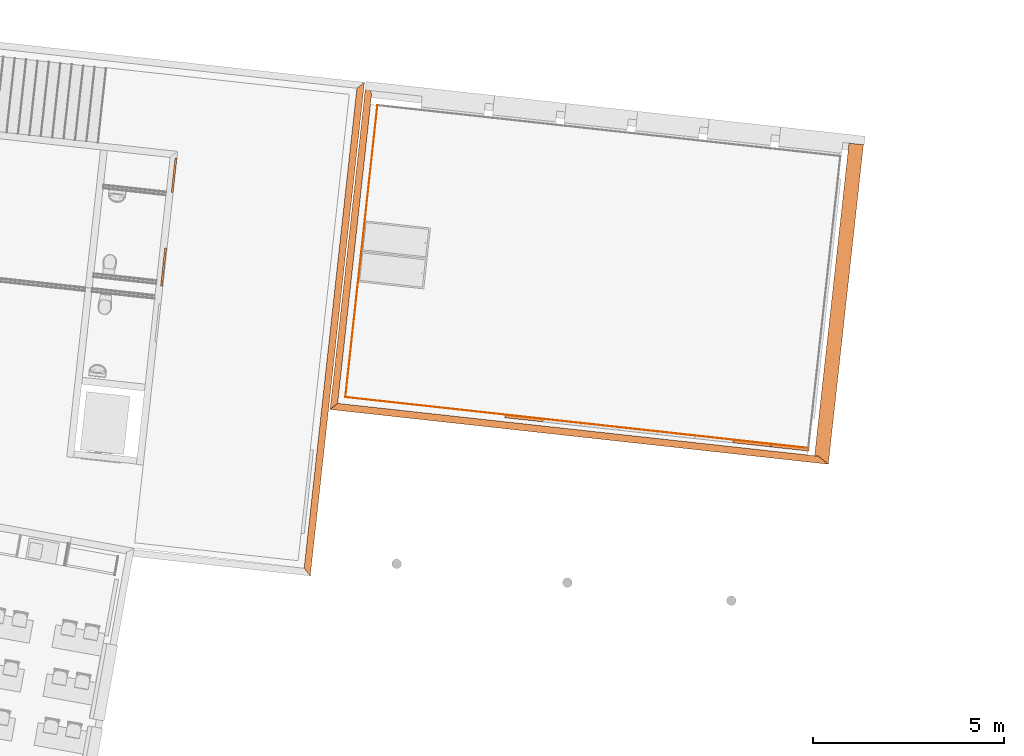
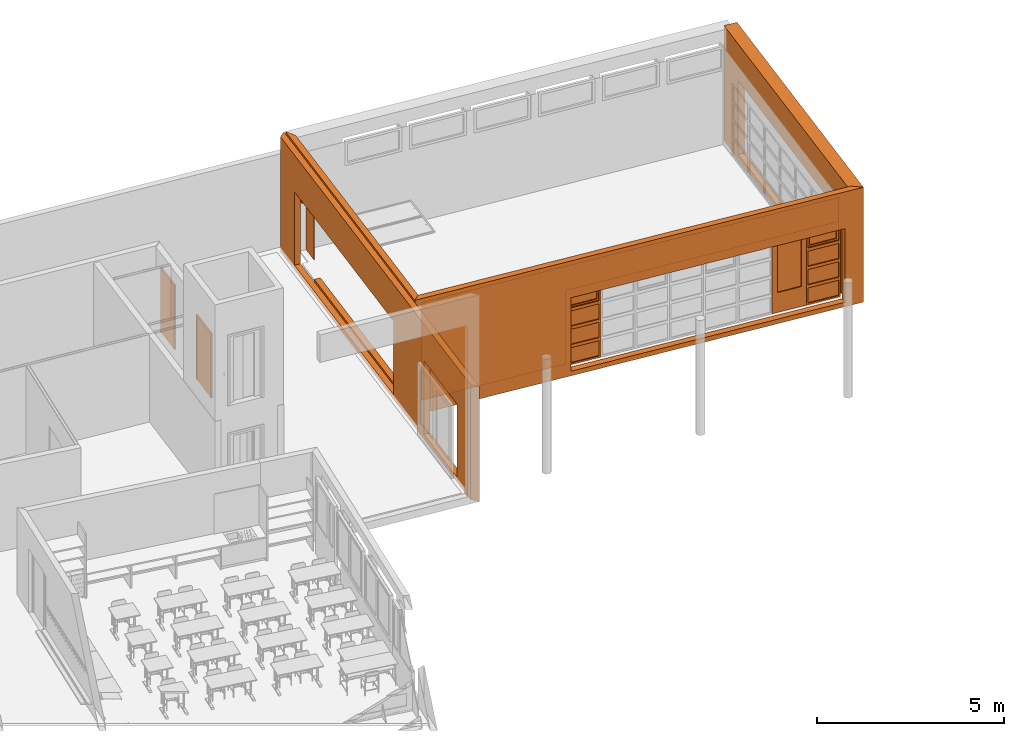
# One storey, part 71 of 79: 11 proxies.
"""IFC2X3 building model written with IfcOpenShell, lengths in metres."""

from ifc_helpers import new_model, entity, si_unit, converted_unit, derived_unit, money_unit, direction, frame, origin_with_axes, place, context, subcontext, project, spatial, polyline, outline, extrude, boolean, open_shell, faceted_brep, surface_model, material, type_object, element, save


model = new_model("IFC2X3")

# Units and contexts
model_context = context("Model", 3, precision=1e-05, world=origin_with_axes(), true_north=direction((0.0, 1.0)))
body_context = subcontext(model_context, "Body", "Model", "MODEL_VIEW")
ifc_project = project(units=[si_unit("LENGTHUNIT", "METRE"), si_unit("AREAUNIT", "SQUARE_METRE"), si_unit("VOLUMEUNIT", "CUBIC_METRE"), converted_unit("PLANEANGLEUNIT", "DEGREE", entity("IfcPlaneAngleMeasure", 0.0174532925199), si_unit("PLANEANGLEUNIT", "RADIAN"), dimensions=[0, 0, 0, 0, 0, 0, 0]), money_unit("CHF"), converted_unit("TIMEUNIT", "Year", entity("IfcTimeMeasure", 31556926.0), si_unit("TIMEUNIT", "SECOND"), dimensions=[0, 0, 1, 0, 0, 0, 0]), si_unit("MASSUNIT", "GRAM", prefix="KILO"), si_unit("THERMODYNAMICTEMPERATUREUNIT", "DEGREE_CELSIUS"), si_unit("LUMINOUSINTENSITYUNIT", "LUMEN"), si_unit("ENERGYUNIT", "JOULE", prefix="MEGA"), derived_unit("THERMALCONDUCTANCEUNIT", [(si_unit("POWERUNIT", "WATT"), 1), (si_unit("LENGTHUNIT", "METRE"), -1), (si_unit("THERMODYNAMICTEMPERATUREUNIT", "KELVIN"), -1)]), derived_unit("SPECIFICHEATCAPACITYUNIT", [(si_unit("ENERGYUNIT", "JOULE"), 1), (si_unit("MASSUNIT", "GRAM", prefix="KILO"), -1), (si_unit("THERMODYNAMICTEMPERATUREUNIT", "KELVIN"), -1)]), derived_unit("MASSDENSITYUNIT", [(si_unit("MASSUNIT", "GRAM", prefix="KILO"), 1), (si_unit("VOLUMEUNIT", "CUBIC_METRE"), -1)])], contexts=[model_context])

# Site, building, storey
site_placement = place(None, frame((0.0, 0.0, 0.0), z_axis=(0.0, 0.0, 1.0), x_axis=(-0.177771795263, -0.984071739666, 0.0)))
site = spatial("IfcSite", under=ifc_project, at=site_placement, Name="Site", CompositionType="ELEMENT")
building_placement = place(site_placement, origin_with_axes())
building = spatial("IfcBuilding", under=site, at=building_placement, Name="Bâtiment", CompositionType="ELEMENT")
storey_placement = place(building_placement, origin_with_axes())
storey = spatial("IfcBuildingStorey", under=building, at=storey_placement, Name="RDC", CompositionType="ELEMENT", Elevation=0.0)

# Proxies
ifc_material_1 = material(Name="Matériau de construction IFC")
building_element_proxy_type_1 = type_object("IfcBuildingElementProxyType", Name="Porte 21", PredefinedType="NOTDEFINED")
proxy_1_placement = place(storey_placement, frame((102.058965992, -148.678173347, 0.0), z_axis=(0.0, 0.0, 1.0), x_axis=(0.997598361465, 0.0692640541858, 0.0)))
element("IfcBuildingElementProxy", 1, at=proxy_1_placement, inside=storey, type_object=building_element_proxy_type_1, material=ifc_material_1, Name="21", context=body_context, shape_type="Brep", body=[
    faceted_brep([(0.05, -0.04, 0.0), (0.05, -0.04, 2.05), (0.05, -0.05, 2.05), (0.05, -0.05, 0.0), (0.038, -0.04, 2.05), (0.038, -0.04, 0.0), (0.038, 0.0, 2.05), (0.0, 0.0, 2.05), (0.0, -0.05, 2.05), (0.0, -0.05, 0.0), (0.0, 0.0, 0.0), (0.038, 0.0, 0.0)], [[[0, 1, 2, 3]], [[4, 1, 0, 5]], [[4, 6, 7, 8, 2, 1]], [[3, 2, 8, 9]], [[5, 0, 3, 9, 10, 11]], [[6, 4, 5, 11]], [[6, 11, 10, 7]], [[10, 9, 8, 7]]]),
    faceted_brep([(0.962, -0.04, 2.05), (0.95, -0.04, 2.05), (0.95, -0.05, 2.05), (1.0, -0.05, 2.05), (1.0, 0.0, 2.05), (0.962, 0.0, 2.05), (0.962, -0.04, 0.0), (0.95, -0.04, 0.0), (0.95, -0.05, 0.0), (1.0, -0.05, 0.0), (1.0, 0.0, 0.0), (0.962, 0.0, 0.0)], [[[0, 1, 2, 3, 4, 5]], [[1, 0, 6, 7]], [[1, 7, 8, 2]], [[3, 2, 8, 9]], [[4, 3, 9, 10]], [[11, 5, 4, 10]], [[0, 5, 11, 6]], [[6, 11, 10, 9, 8, 7]]]),
    faceted_brep([(0.038, 0.0, 2.062), (0.038, 0.0, 2.05), (0.0, 0.0, 2.05), (0.0, 0.0, 2.1), (1.0, 0.0, 2.1), (1.0, 0.0, 2.05), (0.962, 0.0, 2.05), (0.962, 0.0, 2.062), (0.038, -0.04, 2.062), (0.038, -0.04, 2.05), (0.05, -0.04, 2.05), (0.05, -0.05, 2.05), (0.0, -0.05, 2.05), (0.0, -0.05, 2.1), (1.0, -0.05, 2.1), (1.0, -0.05, 2.05), (0.962, -0.04, 2.05), (0.95, -0.05, 2.05), (0.95, -0.04, 2.05), (0.962, -0.04, 2.062)], [[[0, 1, 2, 3, 4, 5, 6, 7]], [[1, 0, 8, 9]], [[9, 10, 11, 12, 2, 1]], [[2, 12, 13, 3]], [[3, 13, 14, 4]], [[4, 14, 15, 5]], [[16, 6, 5, 15, 17, 18]], [[7, 6, 16, 19]], [[0, 7, 19, 8]], [[16, 18, 10, 9, 8, 19]], [[10, 18, 17, 11]], [[17, 15, 14, 13, 12, 11]]]),
    faceted_brep([(0.962, -0.00999999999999, 0.0), (0.962, -0.04, 0.0), (0.038, -0.04, 0.0), (0.038, -0.00999999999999, 0.0), (0.962, -0.00999999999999, 2.062), (0.962, -0.04, 2.062), (0.038, -0.04, 2.062), (0.038, -0.00999999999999, 2.062)], [[[0, 1, 2, 3]], [[4, 5, 1, 0]], [[1, 5, 6, 2]], [[3, 2, 6, 7]], [[0, 3, 7, 4]], [[7, 6, 5, 4]]]),
])
proxy_2_placement = place(storey_placement, frame((99.6953772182, -148.832342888, 0.0), z_axis=(0.0, 0.0, 1.0), x_axis=(0.997598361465, 0.0692640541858, 0.0)))
element("IfcBuildingElementProxy", 2, at=proxy_2_placement, inside=storey, type_object=building_element_proxy_type_1, material=ifc_material_1, Name="32", context=body_context, shape_type="Brep", body=[
    faceted_brep([(0.85, -0.04, 0.0), (0.85, -0.05, 0.0), (0.85, -0.05, 2.05), (0.85, -0.04, 2.05), (0.862, -0.04, 0.0), (0.862, 0.0, 0.0), (0.9, 0.0, 0.0), (0.9, -0.05, 0.0), (0.9, -0.05, 2.05), (0.862, -0.04, 2.05), (0.9, 0.0, 2.05), (0.862, 0.0, 2.05)], [[[0, 1, 2, 3]], [[4, 5, 6, 7, 1, 0]], [[1, 7, 8, 2]], [[9, 3, 2, 8, 10, 11]], [[9, 4, 0, 3]], [[11, 5, 4, 9]], [[11, 10, 6, 5]], [[6, 10, 8, 7]]]),
    faceted_brep([(0.038, -0.04, 2.05), (0.038, 0.0, 2.05), (0.0, 0.0, 2.05), (0.0, -0.05, 2.05), (0.05, -0.05, 2.05), (0.05, -0.04, 2.05), (0.038, -0.04, 0.0), (0.038, 0.0, 0.0), (0.0, 0.0, 0.0), (0.0, -0.05, 0.0), (0.05, -0.05, 0.0), (0.05, -0.04, 0.0)], [[[0, 1, 2, 3, 4, 5]], [[0, 6, 7, 1]], [[7, 8, 2, 1]], [[2, 8, 9, 3]], [[3, 9, 10, 4]], [[5, 4, 10, 11]], [[5, 11, 6, 0]], [[6, 11, 10, 9, 8, 7]]]),
    faceted_brep([(0.862, 0.0, 2.062), (0.038, 0.0, 2.062), (0.038, 0.0, 2.05), (0.0, 0.0, 2.05), (0.0, 0.0, 2.1), (0.9, 0.0, 2.1), (0.9, 0.0, 2.05), (0.862, 0.0, 2.05), (0.862, -0.04, 2.062), (0.038, -0.04, 2.062), (0.038, -0.04, 2.05), (0.05, -0.04, 2.05), (0.05, -0.05, 2.05), (0.0, -0.05, 2.05), (0.0, -0.05, 2.1), (0.9, -0.05, 2.1), (0.9, -0.05, 2.05), (0.862, -0.04, 2.05), (0.85, -0.05, 2.05), (0.85, -0.04, 2.05)], [[[0, 1, 2, 3, 4, 5, 6, 7]], [[0, 8, 9, 1]], [[1, 9, 10, 2]], [[10, 11, 12, 13, 3, 2]], [[4, 3, 13, 14]], [[5, 4, 14, 15]], [[6, 5, 15, 16]], [[17, 7, 6, 16, 18, 19]], [[7, 17, 8, 0]], [[10, 9, 8, 17, 19, 11]], [[19, 18, 12, 11]], [[12, 18, 16, 15, 14, 13]]]),
    faceted_brep([(0.038, -0.00999999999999, 0.0), (0.862, -0.00999999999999, 0.0), (0.862, -0.04, 0.0), (0.038, -0.04, 0.0), (0.038, -0.00999999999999, 2.062), (0.862, -0.00999999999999, 2.062), (0.862, -0.04, 2.062), (0.038, -0.04, 2.062)], [[[0, 1, 2, 3]], [[0, 4, 5, 1]], [[1, 5, 6, 2]], [[3, 2, 6, 7]], [[4, 0, 3, 7]], [[5, 4, 7, 6]]]),
])
proxy_3_placement = place(storey_placement, frame((104.644894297, -132.195010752, 0.0), z_axis=(0.0, 0.0, 1.0), x_axis=(0.0692640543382, -0.997598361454, 0.0)))
element("IfcBuildingElementProxy", 3, at=proxy_3_placement, inside=storey, type_object=building_element_proxy_type_1, material=ifc_material_1, Name="P ext-pluri -detail-", context=body_context, shape_type="SurfaceModel", body=[
    faceted_brep([(0.0, -0.285, 0.0), (0.05, -0.285, 0.0), (0.05, -0.36, 0.0), (0.0, -0.36, 0.0), (0.0, -0.285, 2.35), (0.05, -0.285, 2.35), (0.05, -0.36, 2.35), (0.0, -0.36, 2.35)], [[[0, 1, 2, 3]], [[0, 4, 5, 1]], [[1, 5, 6, 2]], [[3, 2, 6, 7]], [[4, 0, 3, 7]], [[5, 4, 7, 6]]]),
    faceted_brep([(1.0, -0.285, 0.0), (1.0, -0.285, 2.35), (1.0, -0.36, 2.35), (1.0, -0.36, 0.0), (0.95, -0.285, 0.0), (0.95, -0.285, 2.35), (0.95, -0.36, 2.35), (0.95, -0.36, 0.0)], [[[0, 1, 2, 3]], [[0, 4, 5, 1]], [[1, 5, 6, 2]], [[3, 2, 6, 7]], [[4, 0, 3, 7]], [[5, 4, 7, 6]]]),
    faceted_brep([(0.0, -0.285, 2.4), (0.0, -0.285, 2.35), (0.0, -0.36, 2.35), (0.0, -0.36, 2.4), (1.0, -0.285, 2.4), (1.0, -0.285, 2.35), (0.95, -0.285, 2.35), (0.05, -0.285, 2.35), (0.05, -0.36, 2.35), (0.95, -0.36, 2.35), (1.0, -0.36, 2.35), (1.0, -0.36, 2.4)], [[[0, 1, 2, 3]], [[0, 4, 5, 6, 7, 1]], [[1, 7, 8, 2]], [[3, 2, 8, 9, 10, 11]], [[4, 0, 3, 11]], [[5, 4, 11, 10]], [[6, 5, 10, 9]], [[7, 6, 9, 8]]]),
    faceted_brep([(0.95, -0.285, 0.65), (0.95, -0.36, 0.65), (0.85, -0.36, 0.65), (0.85, -0.285, 0.65), (0.95, -0.285, 2.25), (0.95, -0.36, 2.25), (0.85, -0.36, 2.25), (0.85, -0.285, 2.25)], [[[0, 1, 2, 3]], [[4, 5, 1, 0]], [[1, 5, 6, 2]], [[3, 2, 6, 7]], [[0, 3, 7, 4]], [[7, 6, 5, 4]]]),
    faceted_brep([(0.05, -0.285, 0.65), (0.05, -0.36, 0.65), (0.05, -0.36, 2.25), (0.05, -0.285, 2.25), (0.15, -0.285, 0.65), (0.15, -0.36, 0.65), (0.15, -0.36, 2.25), (0.15, -0.285, 2.25)], [[[0, 1, 2, 3]], [[4, 5, 1, 0]], [[1, 5, 6, 2]], [[3, 2, 6, 7]], [[0, 3, 7, 4]], [[7, 6, 5, 4]]]),
    faceted_brep([(0.95, -0.285, 0.0), (0.95, -0.36, 0.0), (0.05, -0.36, 0.0), (0.05, -0.285, 0.0), (0.95, -0.285, 0.65), (0.95, -0.36, 0.65), (0.85, -0.36, 0.65), (0.15, -0.36, 0.65), (0.05, -0.36, 0.65), (0.05, -0.285, 0.65), (0.15, -0.285, 0.65), (0.85, -0.285, 0.65)], [[[0, 1, 2, 3]], [[4, 5, 1, 0]], [[1, 5, 6, 7, 8, 2]], [[3, 2, 8, 9]], [[0, 3, 9, 10, 11, 4]], [[11, 6, 5, 4]], [[10, 7, 6, 11]], [[9, 8, 7, 10]]]),
    faceted_brep([(0.95, -0.285, 2.35), (0.95, -0.36, 2.35), (0.95, -0.36, 2.25), (0.95, -0.285, 2.25), (0.05, -0.285, 2.35), (0.05, -0.36, 2.35), (0.05, -0.36, 2.25), (0.15, -0.36, 2.25), (0.85, -0.36, 2.25), (0.85, -0.285, 2.25), (0.15, -0.285, 2.25), (0.05, -0.285, 2.25)], [[[0, 1, 2, 3]], [[4, 5, 1, 0]], [[1, 5, 6, 7, 8, 2]], [[3, 2, 8, 9]], [[0, 3, 9, 10, 11, 4]], [[11, 6, 5, 4]], [[10, 7, 6, 11]], [[9, 8, 7, 10]]]),
    surface_model("IfcShellBasedSurfaceModel", [(0.85, -0.3125, 0.65), (0.15, -0.3125, 0.65), (0.15, -0.3125, 2.25), (0.85, -0.3125, 2.25)], [open_shell([[[0, 1, 2, 3]]])]),
    surface_model("IfcShellBasedSurfaceModel", [(0.85, -0.3325, 0.65), (0.85, -0.3325, 2.25), (0.15, -0.3325, 2.25), (0.15, -0.3325, 0.65)], [open_shell([[[0, 1, 2, 3]]])]),
])
ifc_material_2 = material(Name="_BA banché RAL9007")
building_element_proxy_type_2 = type_object("IfcBuildingElementProxyType", Name="_M ext 18 +18 gris 360", PredefinedType="NOTDEFINED")
proxy_4_placement = place(storey_placement, frame((105.445553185, -143.726764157, -0.15), z_axis=(0.0, 0.0, 1.0), x_axis=(-0.0692640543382, 0.997598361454, 0.0)))
element("IfcBuildingElementProxy", 4, at=proxy_4_placement, inside=storey, type_object=building_element_proxy_type_2, material=ifc_material_2, Name="M ext pluri-Sud", context=body_context, shape_type="CSG", body=[
    boolean("DIFFERENCE", extrude(outline(polyline([(0.0, 0.0), (13.0995151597, 0.0), (12.8195151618, 0.18), (0.18, 0.18), (0.0, 0.0)])), origin_with_axes(), (0.0, 0.0, 1.0), 3.75), faceted_brep([(12.559515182, 0.18, 0.15), (4.55951518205, 0.18, 0.15), (4.55951518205, 0.18, 2.55), (12.559515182, 0.18, 2.55), (12.559515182, 0.0, 0.15), (4.55951518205, 0.0, 0.15), (4.55951518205, 0.0, 2.55), (12.559515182, 0.0, 2.55)], [[[0, 1, 2, 3]], [[4, 5, 1, 0]], [[5, 6, 2, 1]], [[6, 7, 3, 2]], [[7, 4, 0, 3]], [[4, 7, 6, 5]]])),
])
building_element_proxy_type_3 = type_object("IfcBuildingElementProxyType", Name="_M ext 18 +18 360", PredefinedType="NOTDEFINED")
proxy_5_placement = place(storey_placement, frame((109.817230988, -143.463331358, -0.15), z_axis=(0.0, 0.0, 1.0), x_axis=(-0.997598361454, -0.0692640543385, 0.0)))
element("IfcBuildingElementProxy", 5, at=proxy_5_placement, inside=storey, type_object=building_element_proxy_type_3, material=ifc_material_2, Name="M ext hall-Est", context=body_context, shape_type="CSG", body=[
    boolean("DIFFERENCE", boolean("DIFFERENCE", extrude(outline(polyline([(0.0, 0.0), (12.9794250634, 0.0), (12.7994250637, 0.18), (0.180000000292, 0.18), (0.0, 0.0)])), origin_with_axes(), (0.0, 0.0, 1.0), 3.75), faceted_brep([(11.8794250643, 0.0, 0.15), (11.8794250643, 0.0, 2.55), (5.27942506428, 0.0, 2.55), (5.27942506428, 0.0, 0.15), (11.8794250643, 0.18, 0.15), (11.8794250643, 0.18, 2.55), (5.27942506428, 0.18, 2.55), (5.27942506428, 0.18, 0.15)], [[[0, 1, 2, 3]], [[4, 5, 1, 0]], [[5, 6, 2, 1]], [[6, 7, 3, 2]], [[7, 4, 0, 3]], [[4, 7, 6, 5]]])), faceted_brep([(3.27946988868, 0.0, 0.15), (3.27946988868, 0.0, 2.55), (1.07946988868, 0.0, 2.55), (1.07946988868, 0.0, 0.15), (3.27946988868, 0.18, 0.15), (3.27946988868, 0.18, 2.55), (1.07946988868, 0.18, 2.55), (1.07946988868, 0.18, 0.15)], [[[0, 1, 2, 3]], [[4, 5, 1, 0]], [[5, 6, 2, 1]], [[6, 7, 3, 2]], [[7, 4, 0, 3]], [[4, 7, 6, 5]]])),
])
proxy_6_placement = place(storey_placement, frame((105.445553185, -143.726764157, -0.15), z_axis=(0.0, 0.0, 1.0), x_axis=(-0.997598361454, -0.0692640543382, 0.0)))
element("IfcBuildingElementProxy", 6, at=proxy_6_placement, inside=storey, type_object=building_element_proxy_type_3, material=ifc_material_2, Name="M refend", context=body_context, shape_type="CSG", body=[
    boolean("DIFFERENCE", extrude(outline(polyline([(0.18, -0.18), (8.31999997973, -0.18), (8.59999997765, 0.0), (0.0, 0.0), (0.18, -0.18)])), origin_with_axes(), (0.0, 0.0, 1.0), 3.75), faceted_brep([(6.68453430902, 0.0, 0.15), (0.9000000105, 0.0, 0.15), (0.9000000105, 0.0, 2.55), (7.5000000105, 0.0, 2.55), (7.5000000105, 0.0, 2.1), (8.59999997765, 0.0, 2.1), (8.59999997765, 0.0, 0.0), (6.68453430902, 0.0, 0.0), (6.68453430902, -0.18, 0.15), (0.9000000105, -0.18, 0.15), (0.9000000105, -0.18, 2.55), (7.5000000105, -0.18, 2.55), (7.5000000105, -0.18, 2.1), (8.31999997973, -0.18, 2.1), (8.31999997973, -0.18, 0.0), (6.68453430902, -0.18, 0.0)], [[[0, 1, 2, 3, 4, 5, 6, 7]], [[1, 0, 8, 9]], [[2, 1, 9, 10]], [[3, 2, 10, 11]], [[4, 3, 11, 12]], [[5, 4, 12, 13]], [[5, 13, 14, 6]], [[15, 7, 6, 14]], [[0, 7, 15, 8]], [[8, 15, 14, 13, 12, 11, 10, 9]]])),
])
building_element_proxy_type_4 = type_object("IfcBuildingElementProxyType", Name="Fenêtre verticale à châssis multiples 21", PredefinedType="NOTDEFINED")
proxy_7_placement = place(storey_placement, frame((105.129742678, -139.178199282, 0.0), z_axis=(0.0, 0.0, 1.0), x_axis=(-0.0692640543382, 0.997598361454, 0.0)))
element("IfcBuildingElementProxy", 7, at=proxy_7_placement, inside=storey, type_object=building_element_proxy_type_4, material=ifc_material_1, Name="Baie salle-pluri-Sud -detail-", context=body_context, shape_type="SurfaceModel", body=[
    faceted_brep([(0.96, 0.36, 2.37), (0.96, 0.3225, 2.37), (0.95, 0.3225, 2.37), (0.95, 0.285, 2.37), (1.0, 0.285, 2.37), (1.0, 0.36, 2.37), (0.96, 0.36, 1.84), (0.96, 0.3225, 1.84), (0.95, 0.3225, 1.85), (0.95, 0.3225, 1.84), (0.95, 0.285, 1.85), (0.95, 0.285, 1.75), (0.95, 0.285, 1.25), (0.95, 0.285, 1.15), (0.95, 0.285, 0.65), (0.95, 0.285, 0.55), (0.95, 0.285, 0.05), (1.0, 0.285, 0.05), (1.0, 0.36, 0.05), (0.95, 0.36, 0.05), (0.95, 0.36, 0.55), (0.95, 0.36, 0.65), (0.95, 0.36, 1.15), (0.95, 0.36, 1.25), (0.95, 0.36, 1.75), (0.95, 0.36, 1.84)], [[[0, 1, 2, 3, 4, 5]], [[1, 0, 6, 7]], [[8, 2, 1, 7, 9]], [[2, 8, 10, 3]], [[4, 3, 10, 11, 12, 13, 14, 15, 16, 17]], [[5, 4, 17, 18]], [[6, 0, 5, 18, 19, 20, 21, 22, 23, 24, 25]], [[6, 25, 9, 7]], [[9, 25, 24, 11, 10, 8]], [[23, 12, 11, 24]], [[22, 13, 12, 23]], [[21, 14, 13, 22]], [[20, 15, 14, 21]], [[19, 16, 15, 20]], [[18, 17, 16, 19]]]),
    faceted_brep([(0.05, 0.3225, 2.37), (0.04, 0.3225, 2.37), (0.04, 0.36, 2.37), (0.0, 0.36, 2.37), (0.0, 0.285, 2.37), (0.05, 0.285, 2.37), (0.05, 0.3225, 1.85), (0.05, 0.3225, 1.84), (0.04, 0.3225, 1.84), (0.04, 0.36, 1.84), (0.05, 0.36, 1.84), (0.05, 0.36, 1.75), (0.05, 0.36, 1.25), (0.05, 0.36, 1.15), (0.05, 0.36, 0.65), (0.05, 0.36, 0.55), (0.05, 0.36, 0.05), (0.0, 0.36, 0.05), (0.0, 0.285, 0.05), (0.05, 0.285, 1.75), (0.05, 0.285, 1.85), (0.05, 0.285, 0.05), (0.05, 0.285, 0.55), (0.05, 0.285, 0.65), (0.05, 0.285, 1.15), (0.05, 0.285, 1.25)], [[[0, 1, 2, 3, 4, 5]], [[1, 0, 6, 7, 8]], [[9, 2, 1, 8]], [[9, 10, 11, 12, 13, 14, 15, 16, 17, 3, 2]], [[17, 18, 4, 3]], [[19, 20, 5, 4, 18, 21, 22, 23, 24, 25]], [[6, 0, 5, 20]], [[7, 6, 20, 19, 11, 10]], [[10, 9, 8, 7]], [[11, 19, 25, 12]], [[12, 25, 24, 13]], [[13, 24, 23, 14]], [[14, 23, 22, 15]], [[15, 22, 21, 16]], [[16, 21, 18, 17]]]),
    faceted_brep([(0.96, 0.36, 2.37), (0.96, 0.36, 2.38), (0.04, 0.36, 2.38), (0.04, 0.36, 2.37), (0.0, 0.36, 2.37), (0.0, 0.36, 2.4), (1.0, 0.36, 2.4), (1.0, 0.36, 2.37), (0.96, 0.3225, 2.37), (0.96, 0.3225, 2.38), (0.04, 0.3225, 2.38), (0.04, 0.3225, 2.37), (0.05, 0.3225, 2.37), (0.05, 0.285, 2.37), (0.0, 0.285, 2.37), (0.0, 0.285, 2.4), (1.0, 0.285, 2.4), (1.0, 0.285, 2.37), (0.95, 0.285, 2.37), (0.95, 0.3225, 2.37)], [[[0, 1, 2, 3, 4, 5, 6, 7]], [[1, 0, 8, 9]], [[2, 1, 9, 10]], [[3, 2, 10, 11]], [[11, 12, 13, 14, 4, 3]], [[4, 14, 15, 5]], [[5, 15, 16, 6]], [[6, 16, 17, 7]], [[8, 0, 7, 17, 18, 19]], [[12, 11, 10, 9, 8, 19]], [[12, 19, 18, 13]], [[14, 13, 18, 17, 16, 15]]]),
    faceted_brep([(0.95, 0.3225, 1.85), (0.05, 0.3225, 1.85), (0.05, 0.285, 1.85), (0.95, 0.285, 1.85), (0.05, 0.3225, 1.84), (0.95, 0.3225, 1.84), (0.05, 0.36, 1.84), (0.05, 0.36, 1.75), (0.05, 0.285, 1.75), (0.95, 0.285, 1.75), (0.95, 0.36, 1.75), (0.95, 0.36, 1.84)], [[[0, 1, 2, 3]], [[4, 1, 0, 5]], [[4, 6, 7, 8, 2, 1]], [[3, 2, 8, 9]], [[5, 0, 3, 9, 10, 11]], [[11, 6, 4, 5]], [[6, 11, 10, 7]], [[10, 9, 8, 7]]]),
    faceted_brep([(0.95, 0.285, 0.05), (1.0, 0.285, 0.05), (1.0, 0.36, 0.05), (0.95, 0.36, 0.05), (0.05, 0.285, 0.05), (0.0, 0.285, 0.05), (0.0, 0.285, 0.0), (1.0, 0.285, 0.0), (1.0, 0.36, 0.0), (0.0, 0.36, 0.0), (0.0, 0.36, 0.05), (0.05, 0.36, 0.05)], [[[0, 1, 2, 3]], [[0, 4, 5, 6, 7, 1]], [[1, 7, 8, 2]], [[3, 2, 8, 9, 10, 11]], [[4, 0, 3, 11]], [[5, 4, 11, 10]], [[6, 5, 10, 9]], [[7, 6, 9, 8]]]),
    faceted_brep([(0.05, 0.285, 0.65), (0.95, 0.285, 0.65), (0.95, 0.36, 0.65), (0.05, 0.36, 0.65), (0.05, 0.285, 0.55), (0.95, 0.285, 0.55), (0.95, 0.36, 0.55), (0.05, 0.36, 0.55)], [[[0, 1, 2, 3]], [[0, 4, 5, 1]], [[1, 5, 6, 2]], [[3, 2, 6, 7]], [[4, 0, 3, 7]], [[5, 4, 7, 6]]]),
    faceted_brep([(0.05, 0.285, 1.25), (0.95, 0.285, 1.25), (0.95, 0.36, 1.25), (0.05, 0.36, 1.25), (0.05, 0.285, 1.15), (0.95, 0.285, 1.15), (0.95, 0.36, 1.15), (0.05, 0.36, 1.15)], [[[0, 1, 2, 3]], [[0, 4, 5, 1]], [[1, 5, 6, 2]], [[3, 2, 6, 7]], [[4, 0, 3, 7]], [[5, 4, 7, 6]]]),
    surface_model("IfcShellBasedSurfaceModel", [(0.95, 0.3125, 0.05), (0.95, 0.3125, 0.55), (0.05, 0.3125, 0.55), (0.05, 0.3125, 0.05)], [open_shell([[[0, 1, 2, 3]]])]),
    surface_model("IfcShellBasedSurfaceModel", [(0.95, 0.3325, 0.05), (0.05, 0.3325, 0.05), (0.05, 0.3325, 0.55), (0.95, 0.3325, 0.55)], [open_shell([[[0, 1, 2, 3]]])]),
    surface_model("IfcShellBasedSurfaceModel", [(0.95, 0.3125, 0.65), (0.95, 0.3125, 1.15), (0.05, 0.3125, 1.15), (0.05, 0.3125, 0.65)], [open_shell([[[0, 1, 2, 3]]])]),
    surface_model("IfcShellBasedSurfaceModel", [(0.95, 0.3325, 0.65), (0.05, 0.3325, 0.65), (0.05, 0.3325, 1.15), (0.95, 0.3325, 1.15)], [open_shell([[[0, 1, 2, 3]]])]),
    surface_model("IfcShellBasedSurfaceModel", [(0.95, 0.3125, 1.25), (0.95, 0.3125, 1.75), (0.05, 0.3125, 1.75), (0.05, 0.3125, 1.25)], [open_shell([[[0, 1, 2, 3]]])]),
    surface_model("IfcShellBasedSurfaceModel", [(0.95, 0.3325, 1.25), (0.05, 0.3325, 1.25), (0.05, 0.3325, 1.75), (0.95, 0.3325, 1.75)], [open_shell([[[0, 1, 2, 3]]])]),
    faceted_brep([(0.9, 0.3225, 2.32), (0.96, 0.3225, 2.32), (0.96, 0.3975, 2.32), (0.9, 0.3975, 2.32), (0.9, 0.3225, 1.9), (0.96, 0.3225, 1.9), (0.96, 0.3975, 1.9), (0.9, 0.3975, 1.9)], [[[0, 1, 2, 3]], [[0, 4, 5, 1]], [[1, 5, 6, 2]], [[3, 2, 6, 7]], [[4, 0, 3, 7]], [[5, 4, 7, 6]]]),
    faceted_brep([(0.1, 0.3225, 1.9), (0.04, 0.3225, 1.9), (0.04, 0.3975, 1.9), (0.1, 0.3975, 1.9), (0.1, 0.3225, 2.32), (0.04, 0.3225, 2.32), (0.04, 0.3975, 2.32), (0.1, 0.3975, 2.32)], [[[0, 1, 2, 3]], [[0, 4, 5, 1]], [[1, 5, 6, 2]], [[3, 2, 6, 7]], [[4, 0, 3, 7]], [[5, 4, 7, 6]]]),
    faceted_brep([(0.04, 0.3225, 1.84), (0.04, 0.3225, 1.9), (0.04, 0.3975, 1.9), (0.04, 0.3975, 1.84), (0.96, 0.3225, 1.84), (0.96, 0.3225, 1.9), (0.9, 0.3225, 1.9), (0.1, 0.3225, 1.9), (0.1, 0.3975, 1.9), (0.9, 0.3975, 1.9), (0.96, 0.3975, 1.9), (0.96, 0.3975, 1.84)], [[[0, 1, 2, 3]], [[0, 4, 5, 6, 7, 1]], [[1, 7, 8, 2]], [[3, 2, 8, 9, 10, 11]], [[4, 0, 3, 11]], [[5, 4, 11, 10]], [[6, 5, 10, 9]], [[7, 6, 9, 8]]]),
    faceted_brep([(0.96, 0.3225, 2.38), (0.96, 0.3225, 2.32), (0.96, 0.3975, 2.32), (0.96, 0.3975, 2.38), (0.04, 0.3225, 2.38), (0.04, 0.3225, 2.32), (0.1, 0.3225, 2.32), (0.9, 0.3225, 2.32), (0.9, 0.3975, 2.32), (0.1, 0.3975, 2.32), (0.04, 0.3975, 2.32), (0.04, 0.3975, 2.38)], [[[0, 1, 2, 3]], [[0, 4, 5, 6, 7, 1]], [[1, 7, 8, 2]], [[3, 2, 8, 9, 10, 11]], [[4, 0, 3, 11]], [[5, 4, 11, 10]], [[6, 5, 10, 9]], [[7, 6, 9, 8]]]),
    surface_model("IfcShellBasedSurfaceModel", [(0.9, 0.35, 1.9), (0.9, 0.35, 2.32), (0.1, 0.35, 2.32), (0.1, 0.35, 1.9)], [open_shell([[[0, 1, 2, 3]]])]),
    surface_model("IfcShellBasedSurfaceModel", [(0.9, 0.37, 1.9), (0.1, 0.37, 1.9), (0.1, 0.37, 2.32), (0.9, 0.37, 2.32)], [open_shell([[[0, 1, 2, 3]]])]),
])
proxy_8_placement = place(storey_placement, frame((104.644894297, -132.195010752, 0.0), z_axis=(0.0, 0.0, 1.0), x_axis=(-0.0692640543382, 0.997598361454, 0.0)))
element("IfcBuildingElementProxy", 8, at=proxy_8_placement, inside=storey, type_object=building_element_proxy_type_4, material=ifc_material_1, Name="Baie salle-pluri-Sud -detail-", context=body_context, shape_type="SurfaceModel", body=[
    faceted_brep([(0.04, 0.36, 2.37), (0.0, 0.36, 2.37), (0.0, 0.285, 2.37), (0.05, 0.285, 2.37), (0.05, 0.3225, 2.37), (0.04, 0.3225, 2.37), (0.04, 0.36, 1.84), (0.05, 0.36, 1.84), (0.05, 0.36, 1.75), (0.05, 0.36, 1.25), (0.05, 0.36, 1.15), (0.05, 0.36, 0.65), (0.05, 0.36, 0.55), (0.05, 0.36, 0.05), (0.0, 0.36, 0.05), (0.0, 0.285, 0.05), (0.05, 0.285, 0.05), (0.05, 0.285, 0.55), (0.05, 0.285, 0.65), (0.05, 0.285, 1.15), (0.05, 0.285, 1.25), (0.05, 0.285, 1.75), (0.05, 0.285, 1.85), (0.05, 0.3225, 1.85), (0.05, 0.3225, 1.84), (0.04, 0.3225, 1.84)], [[[0, 1, 2, 3, 4, 5]], [[6, 7, 8, 9, 10, 11, 12, 13, 14, 1, 0]], [[1, 14, 15, 2]], [[2, 15, 16, 17, 18, 19, 20, 21, 22, 3]], [[4, 3, 22, 23]], [[23, 24, 25, 5, 4]], [[5, 25, 6, 0]], [[6, 25, 24, 7]], [[24, 23, 22, 21, 8, 7]], [[9, 8, 21, 20]], [[10, 9, 20, 19]], [[11, 10, 19, 18]], [[12, 11, 18, 17]], [[13, 12, 17, 16]], [[14, 13, 16, 15]]]),
    faceted_brep([(0.95, 0.3225, 2.37), (0.95, 0.285, 2.37), (1.0, 0.285, 2.37), (1.0, 0.36, 2.37), (0.96, 0.36, 2.37), (0.96, 0.3225, 2.37), (0.95, 0.3225, 1.85), (0.95, 0.285, 1.85), (0.95, 0.285, 1.75), (0.95, 0.285, 1.25), (0.95, 0.285, 1.15), (0.95, 0.285, 0.65), (0.95, 0.285, 0.55), (0.95, 0.285, 0.05), (1.0, 0.285, 0.05), (1.0, 0.36, 0.05), (0.96, 0.36, 1.84), (0.95, 0.36, 0.05), (0.95, 0.36, 0.55), (0.95, 0.36, 0.65), (0.95, 0.36, 1.15), (0.95, 0.36, 1.25), (0.95, 0.36, 1.75), (0.95, 0.36, 1.84), (0.96, 0.3225, 1.84), (0.95, 0.3225, 1.84)], [[[0, 1, 2, 3, 4, 5]], [[6, 7, 1, 0]], [[8, 9, 10, 11, 12, 13, 14, 2, 1, 7]], [[15, 3, 2, 14]], [[16, 4, 3, 15, 17, 18, 19, 20, 21, 22, 23]], [[16, 24, 5, 4]], [[5, 24, 25, 6, 0]], [[25, 23, 22, 8, 7, 6]], [[22, 21, 9, 8]], [[21, 20, 10, 9]], [[20, 19, 11, 10]], [[19, 18, 12, 11]], [[18, 17, 13, 12]], [[17, 15, 14, 13]], [[23, 25, 24, 16]]]),
    faceted_brep([(0.04, 0.36, 2.37), (0.0, 0.36, 2.37), (0.0, 0.36, 2.4), (1.0, 0.36, 2.4), (1.0, 0.36, 2.37), (0.96, 0.36, 2.37), (0.96, 0.36, 2.38), (0.04, 0.36, 2.38), (0.04, 0.3225, 2.37), (0.05, 0.3225, 2.37), (0.05, 0.285, 2.37), (0.0, 0.285, 2.37), (0.0, 0.285, 2.4), (1.0, 0.285, 2.4), (1.0, 0.285, 2.37), (0.96, 0.3225, 2.37), (0.95, 0.285, 2.37), (0.95, 0.3225, 2.37), (0.96, 0.3225, 2.38), (0.04, 0.3225, 2.38)], [[[0, 1, 2, 3, 4, 5, 6, 7]], [[8, 9, 10, 11, 1, 0]], [[2, 1, 11, 12]], [[3, 2, 12, 13]], [[4, 3, 13, 14]], [[15, 5, 4, 14, 16, 17]], [[5, 15, 18, 6]], [[6, 18, 19, 7]], [[7, 19, 8, 0]], [[17, 9, 8, 19, 18, 15]], [[17, 16, 10, 9]], [[14, 13, 12, 11, 10, 16]]]),
    faceted_brep([(0.05, 0.3225, 1.85), (0.05, 0.285, 1.85), (0.95, 0.285, 1.85), (0.95, 0.3225, 1.85), (0.05, 0.3225, 1.84), (0.05, 0.36, 1.84), (0.05, 0.36, 1.75), (0.05, 0.285, 1.75), (0.95, 0.285, 1.75), (0.95, 0.3225, 1.84), (0.95, 0.36, 1.75), (0.95, 0.36, 1.84)], [[[0, 1, 2, 3]], [[4, 5, 6, 7, 1, 0]], [[1, 7, 8, 2]], [[9, 3, 2, 8, 10, 11]], [[9, 4, 0, 3]], [[5, 4, 9, 11]], [[11, 10, 6, 5]], [[6, 10, 8, 7]]]),
    faceted_brep([(0.05, 0.285, 0.05), (0.05, 0.36, 0.05), (0.0, 0.36, 0.05), (0.0, 0.285, 0.05), (0.95, 0.285, 0.05), (0.95, 0.36, 0.05), (1.0, 0.36, 0.05), (1.0, 0.36, 0.0), (0.0, 0.36, 0.0), (0.0, 0.285, 0.0), (1.0, 0.285, 0.0), (1.0, 0.285, 0.05)], [[[0, 1, 2, 3]], [[4, 5, 1, 0]], [[1, 5, 6, 7, 8, 2]], [[3, 2, 8, 9]], [[0, 3, 9, 10, 11, 4]], [[11, 6, 5, 4]], [[10, 7, 6, 11]], [[9, 8, 7, 10]]]),
    faceted_brep([(0.95, 0.285, 0.65), (0.95, 0.36, 0.65), (0.05, 0.36, 0.65), (0.05, 0.285, 0.65), (0.95, 0.285, 0.55), (0.95, 0.36, 0.55), (0.05, 0.36, 0.55), (0.05, 0.285, 0.55)], [[[0, 1, 2, 3]], [[4, 5, 1, 0]], [[1, 5, 6, 2]], [[3, 2, 6, 7]], [[0, 3, 7, 4]], [[7, 6, 5, 4]]]),
    faceted_brep([(0.95, 0.285, 1.25), (0.95, 0.36, 1.25), (0.05, 0.36, 1.25), (0.05, 0.285, 1.25), (0.95, 0.285, 1.15), (0.95, 0.36, 1.15), (0.05, 0.36, 1.15), (0.05, 0.285, 1.15)], [[[0, 1, 2, 3]], [[4, 5, 1, 0]], [[1, 5, 6, 2]], [[3, 2, 6, 7]], [[0, 3, 7, 4]], [[7, 6, 5, 4]]]),
    surface_model("IfcShellBasedSurfaceModel", [(0.05, 0.3125, 0.05), (0.95, 0.3125, 0.05), (0.95, 0.3125, 0.55), (0.05, 0.3125, 0.55)], [open_shell([[[0, 1, 2, 3]]])]),
    surface_model("IfcShellBasedSurfaceModel", [(0.05, 0.3325, 0.05), (0.05, 0.3325, 0.55), (0.95, 0.3325, 0.55), (0.95, 0.3325, 0.05)], [open_shell([[[0, 1, 2, 3]]])]),
    surface_model("IfcShellBasedSurfaceModel", [(0.05, 0.3125, 0.65), (0.95, 0.3125, 0.65), (0.95, 0.3125, 1.15), (0.05, 0.3125, 1.15)], [open_shell([[[0, 1, 2, 3]]])]),
    surface_model("IfcShellBasedSurfaceModel", [(0.05, 0.3325, 0.65), (0.05, 0.3325, 1.15), (0.95, 0.3325, 1.15), (0.95, 0.3325, 0.65)], [open_shell([[[0, 1, 2, 3]]])]),
    surface_model("IfcShellBasedSurfaceModel", [(0.05, 0.3125, 1.25), (0.95, 0.3125, 1.25), (0.95, 0.3125, 1.75), (0.05, 0.3125, 1.75)], [open_shell([[[0, 1, 2, 3]]])]),
    surface_model("IfcShellBasedSurfaceModel", [(0.05, 0.3325, 1.25), (0.05, 0.3325, 1.75), (0.95, 0.3325, 1.75), (0.95, 0.3325, 1.25)], [open_shell([[[0, 1, 2, 3]]])]),
    faceted_brep([(0.1, 0.3225, 2.32), (0.1, 0.3975, 2.32), (0.04, 0.3975, 2.32), (0.04, 0.3225, 2.32), (0.1, 0.3225, 1.9), (0.1, 0.3975, 1.9), (0.04, 0.3975, 1.9), (0.04, 0.3225, 1.9)], [[[0, 1, 2, 3]], [[4, 5, 1, 0]], [[1, 5, 6, 2]], [[3, 2, 6, 7]], [[0, 3, 7, 4]], [[7, 6, 5, 4]]]),
    faceted_brep([(0.9, 0.3225, 1.9), (0.9, 0.3975, 1.9), (0.96, 0.3975, 1.9), (0.96, 0.3225, 1.9), (0.9, 0.3225, 2.32), (0.9, 0.3975, 2.32), (0.96, 0.3975, 2.32), (0.96, 0.3225, 2.32)], [[[0, 1, 2, 3]], [[4, 5, 1, 0]], [[1, 5, 6, 2]], [[3, 2, 6, 7]], [[0, 3, 7, 4]], [[7, 6, 5, 4]]]),
    faceted_brep([(0.96, 0.3225, 1.84), (0.96, 0.3975, 1.84), (0.96, 0.3975, 1.9), (0.96, 0.3225, 1.9), (0.04, 0.3225, 1.84), (0.04, 0.3975, 1.84), (0.04, 0.3975, 1.9), (0.1, 0.3975, 1.9), (0.9, 0.3975, 1.9), (0.9, 0.3225, 1.9), (0.1, 0.3225, 1.9), (0.04, 0.3225, 1.9)], [[[0, 1, 2, 3]], [[4, 5, 1, 0]], [[1, 5, 6, 7, 8, 2]], [[3, 2, 8, 9]], [[0, 3, 9, 10, 11, 4]], [[11, 6, 5, 4]], [[10, 7, 6, 11]], [[9, 8, 7, 10]]]),
    faceted_brep([(0.04, 0.3225, 2.38), (0.04, 0.3975, 2.38), (0.04, 0.3975, 2.32), (0.04, 0.3225, 2.32), (0.96, 0.3225, 2.38), (0.96, 0.3975, 2.38), (0.96, 0.3975, 2.32), (0.9, 0.3975, 2.32), (0.1, 0.3975, 2.32), (0.1, 0.3225, 2.32), (0.9, 0.3225, 2.32), (0.96, 0.3225, 2.32)], [[[0, 1, 2, 3]], [[4, 5, 1, 0]], [[1, 5, 6, 7, 8, 2]], [[3, 2, 8, 9]], [[0, 3, 9, 10, 11, 4]], [[11, 6, 5, 4]], [[10, 7, 6, 11]], [[9, 8, 7, 10]]]),
    surface_model("IfcShellBasedSurfaceModel", [(0.1, 0.35, 1.9), (0.9, 0.35, 1.9), (0.9, 0.35, 2.32), (0.1, 0.35, 2.32)], [open_shell([[[0, 1, 2, 3]]])]),
    surface_model("IfcShellBasedSurfaceModel", [(0.1, 0.37, 1.9), (0.1, 0.37, 2.32), (0.9, 0.37, 2.32), (0.9, 0.37, 1.9)], [open_shell([[[0, 1, 2, 3]]])]),
])
building_element_proxy_type_5 = type_object("IfcBuildingElementProxyType", Name="_M ext pluri Est 560 x 3750", PredefinedType="NOTDEFINED")
proxy_9_placement = place(storey_placement, frame((104.552080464, -130.858228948, -0.15), z_axis=(0.0, 0.0, 1.0), x_axis=(-0.997598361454, -0.0692640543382, 0.0)))
element("IfcBuildingElementProxy", 9, at=proxy_9_placement, inside=storey, type_object=building_element_proxy_type_5, material=ifc_material_2, Name="M ext pluri-Est", context=body_context, shape_type="CSG", body=[
    boolean("DIFFERENCE", extrude(outline(polyline([(-0.18, 3.75), (-0.18, 0.0), (-2.23517630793e-08, 0.0), (-2.23517630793e-08, 2.55), (0.199999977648, 2.55), (0.199999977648, 3.35), (0.199999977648, 3.75), (-0.18, 3.75)])), frame((0.0, 0.0, 0.0), z_axis=(-1.0, 0.0, 0.0), x_axis=(0.0, -1.0, 0.0)), (0.0, 0.0, -1.0), 8.4), faceted_brep([(7.45, 2.23517133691e-08, 0.15), (7.45, 2.23517133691e-08, 2.55), (1.15, 2.23517133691e-08, 2.55), (1.15, 2.23517417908e-08, 0.15), (7.45, 0.18, 0.15), (7.45, 0.18, 2.55), (1.15, 0.18, 2.55), (1.15, 0.18, 0.15)], [[[0, 1, 2, 3]], [[4, 5, 1, 0]], [[5, 6, 2, 1]], [[6, 7, 3, 2]], [[7, 4, 0, 3]], [[4, 7, 6, 5]]])),
])
building_element_proxy_type_6 = type_object("IfcBuildingElementProxyType", Name="_BA banché RAL9007 5", PredefinedType="NOTDEFINED")
proxy_10_placement = place(storey_placement, frame((97.4054973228, -143.918110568, 0.0), z_axis=(0.0, 0.0, 1.0), x_axis=(0.997598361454, 0.0692640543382, 0.0)))
element("IfcBuildingElementProxy", 10, at=proxy_10_placement, inside=storey, type_object=building_element_proxy_type_6, material=ifc_material_2, Name="Peinture murale", context=body_context, shape_type="CSG", body=[
    boolean("DIFFERENCE", extrude(outline(polyline([(-0.00499999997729, -0.005), (7.67299998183, -0.005), (7.66799998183, 0.0), (0.0, 0.0), (-0.00499999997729, -0.005)])), origin_with_axes(), (0.0, 0.0, 1.0), 3.2), faceted_brep([(0.53400005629, -0.00499999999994, 2.4), (0.53400005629, -0.00499999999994, 0.0), (7.13400005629, -0.00499999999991, 0.0), (7.13400005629, -0.00499999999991, 2.4), (0.53400005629, 0.0, 2.4), (0.53400005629, 0.0, 0.0), (7.13400005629, 0.0, 0.0), (7.13400005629, 0.0, 2.4)], [[[0, 1, 2, 3]], [[1, 0, 4, 5]], [[6, 2, 1, 5]], [[3, 2, 6, 7]], [[0, 3, 7, 4]], [[7, 6, 5, 4]]])),
])
proxy_11_placement = place(storey_placement, frame((105.05508154, -143.386993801, 0.0), z_axis=(0.0, 0.0, 1.0), x_axis=(-0.0692640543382, 0.997598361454, 0.0)))
element("IfcBuildingElementProxy", 11, at=proxy_11_placement, inside=storey, type_object=building_element_proxy_type_6, material=ifc_material_2, Name="Peinture murale", context=body_context, shape_type="CSG", body=[
    boolean("DIFFERENCE", extrude(outline(polyline([(-0.00499999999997, -0.00500000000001), (12.1725151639, -0.005), (12.1675151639, 0.0), (0.0, 0.0), (-0.00499999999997, -0.00500000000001)])), origin_with_axes(), (0.0, 0.0, 1.0), 3.2), faceted_brep([(12.1675151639, -0.00500000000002, 0.0), (12.1675151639, -0.00500000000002, 2.4), (4.19351518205, -0.00500000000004, 2.4), (4.19351518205, -0.00500000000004, 0.0), (12.1675151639, 0.0, 0.0), (12.1675151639, 0.0, 2.4), (4.19351518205, 0.0, 2.4), (4.19351518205, 0.0, 0.0)], [[[0, 1, 2, 3]], [[1, 0, 4, 5]], [[2, 1, 5, 6]], [[3, 2, 6, 7]], [[4, 0, 3, 7]], [[5, 4, 7, 6]]])),
])

save(model, "model.ifc")
